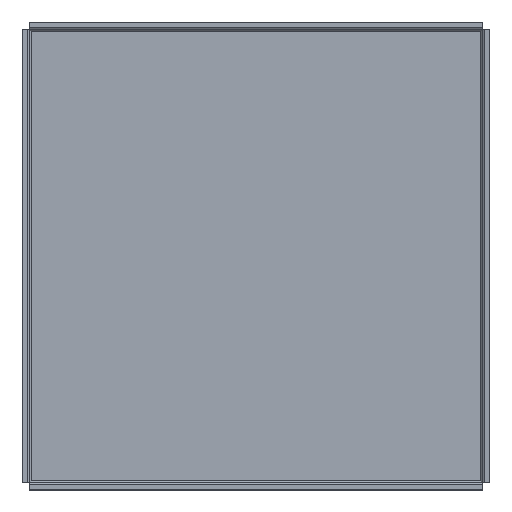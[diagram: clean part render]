
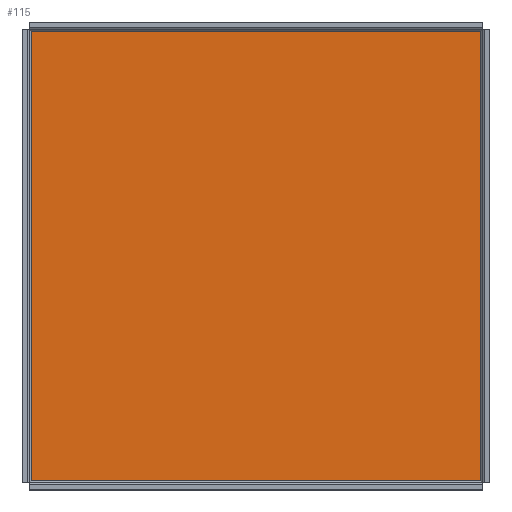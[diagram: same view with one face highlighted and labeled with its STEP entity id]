
A CAD part, top view. The second image highlights one B-rep face of the part: STEP entity #115.
In plain terms, the highlighted planar face has unit normal (0, 0, 1).
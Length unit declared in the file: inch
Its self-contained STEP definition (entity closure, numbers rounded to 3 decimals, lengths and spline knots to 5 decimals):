
#115=ADVANCED_FACE('',(#217),#1389,.T.);
#217=FACE_OUTER_BOUND('',#319,.T.);
#319=EDGE_LOOP('',(#740,#741,#742,#743));
#740=ORIENTED_EDGE('',*,*,#881,.T.);
#741=ORIENTED_EDGE('',*,*,#920,.T.);
#742=ORIENTED_EDGE('',*,*,#939,.T.);
#743=ORIENTED_EDGE('',*,*,#901,.T.);
#881=EDGE_CURVE('',#1283,#1282,#1125,.T.);
#901=EDGE_CURVE('',#1292,#1283,#1145,.T.);
#920=EDGE_CURVE('',#1282,#1300,#1164,.T.);
#939=EDGE_CURVE('',#1300,#1292,#1183,.T.);
#1125=B_SPLINE_CURVE_WITH_KNOTS('',1,(#2435,#2436),.UNSPECIFIED.,.F.,.F.,
(2,2),(-22.71373,0.),.UNSPECIFIED.);
#1145=B_SPLINE_CURVE_WITH_KNOTS('',1,(#2483,#2484),.UNSPECIFIED.,.F.,.F.,
(2,2),(-22.71373,0.),.UNSPECIFIED.);
#1164=B_SPLINE_CURVE_WITH_KNOTS('',1,(#2529,#2530),.UNSPECIFIED.,.F.,.F.,
(2,2),(-22.71373,0.),.UNSPECIFIED.);
#1183=B_SPLINE_CURVE_WITH_KNOTS('',1,(#2575,#2576),.UNSPECIFIED.,.F.,.F.,
(2,2),(-22.71373,0.),.UNSPECIFIED.);
#1282=VERTEX_POINT('',#2099);
#1283=VERTEX_POINT('',#2100);
#1292=VERTEX_POINT('',#2109);
#1300=VERTEX_POINT('',#2117);
#1389=PLANE('',#1598);
#1598=AXIS2_PLACEMENT_3D('',#2016,#1727,$);
#1727=DIRECTION('',(0.,0.,1.));
#2016=CARTESIAN_POINT('',(-2.24296,-2.24296,0.04));
#2099=CARTESIAN_POINT('',(0.03314,22.74686,0.04));
#2100=CARTESIAN_POINT('',(22.74686,22.74686,0.04));
#2109=CARTESIAN_POINT('',(22.74686,0.03314,0.04));
#2117=CARTESIAN_POINT('',(0.03314,0.03314,0.04));
#2435=CARTESIAN_POINT('',(22.74686,22.74686,0.04));
#2436=CARTESIAN_POINT('',(0.03314,22.74686,0.04));
#2483=CARTESIAN_POINT('',(22.74686,0.03314,0.04));
#2484=CARTESIAN_POINT('',(22.74686,22.74686,0.04));
#2529=CARTESIAN_POINT('',(0.03314,22.74686,0.04));
#2530=CARTESIAN_POINT('',(0.03314,0.03314,0.04));
#2575=CARTESIAN_POINT('',(0.03314,0.03314,0.04));
#2576=CARTESIAN_POINT('',(22.74686,0.03314,0.04));
